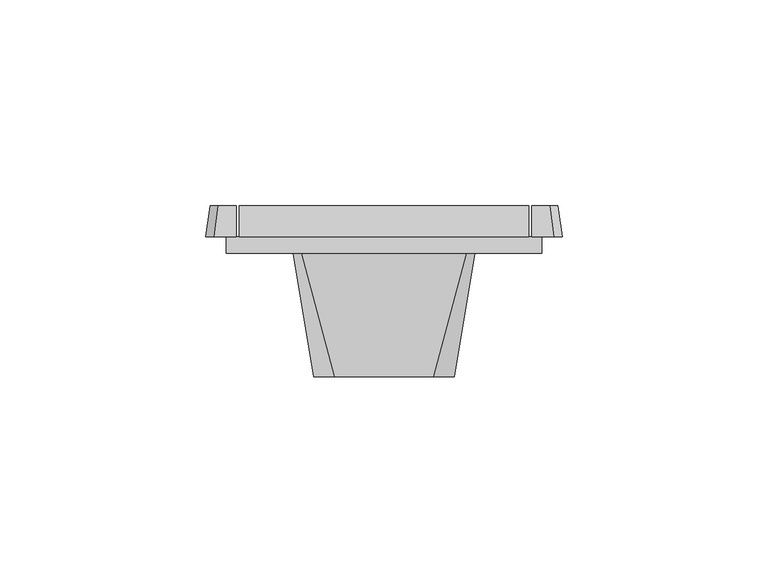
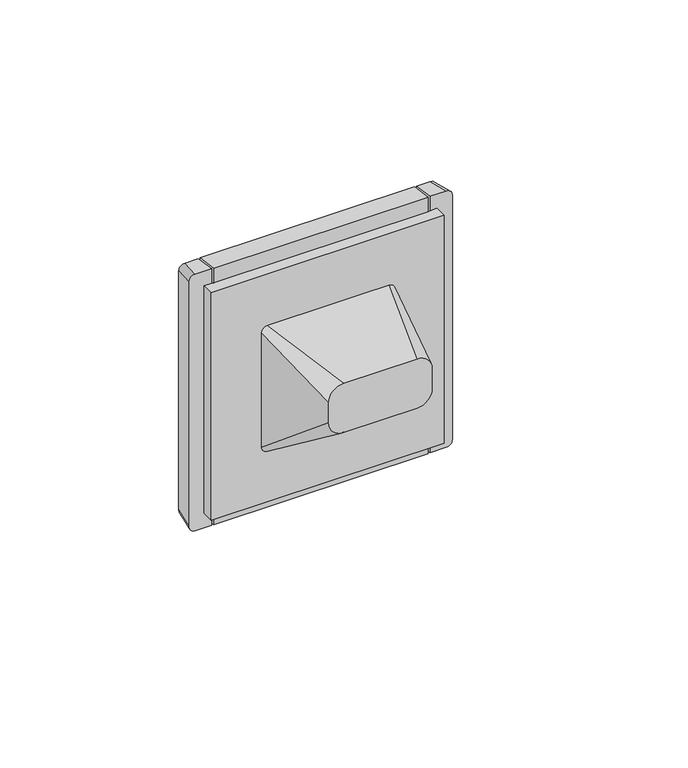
"""IFC4 building model written with IfcOpenShell, lengths in millimetres: proxy geometry, IEK_Forte&Piano_Розекта 1гн : USB A+C_FP147."""

from ifc_helpers import new_model, si_unit, point, frame, frame_2d, origin, origin_2d, place, context, project, spatial, polyline, circle_curve, ellipse_curve, trimmed, segment, composite_curve, outline, extrude, source, transform, mapped, element, save
from ifc_brep_helpers import plane_surface, cylinder_surface, revolved_surface, extruded_surface, spline_surface, advanced_brep


def electrical_fixtures_acb74695(model_context):
    return source(origin(), model_context, "Body", "SolidModel", [
        advanced_brep(
        [(35.2, 11.5, 43.5), (35.2, 4.0, 44.5), (35.2, 4.0, 39.5), (35.2, 4.0, -39.5), (35.2, 4.0, -44.5), (35.2, 11.5, -43.5), (-35.2, 11.5, 43.5), (-35.2, 11.5, -43.5), (-35.2, 4.0, -44.5), (-35.2, 4.0, -39.5), (-35.2, 4.0, 39.5), (-35.2, 4.0, 44.5), (21.930348, 11.5, 11.4595346), (26.1729886, 11.5, 15.7021753), (16.2734937, 11.5, 25.6016703), (12.030853, 11.5, 21.3590296), (-15.5519212, 11.5, 19.9592818), (-17.6732415, 11.5, 22.0806021), (-22.6519205, 11.5, 17.1019231), (-20.5306001, 11.5, 14.9806028), (-20.0, 11.5, 0.0), (20.0, 11.5, 0.0), (26.1729886, 4.0, 15.7021753), (21.930348, 4.0, 11.4595346), (12.030853, 4.0, 21.3590296), (16.2734937, 4.0, 25.6016703), (-17.6732415, 4.0, 22.0806021), (-15.5519212, 4.0, 19.9592818), (-20.5306001, 4.0, 14.9806028), (-22.6519205, 4.0, 17.1019231), (-20.0, 0.0, 0.0), (20.0, 0.0, 0.0), (38.25, 4.0, 39.5), (38.25, 4.0, -39.5), (-38.25, 4.0, -39.5), (-38.25, 4.0, 39.5), (-38.25, 0.0, 39.5), (-38.25, 0.0, -39.5), (38.25, 0.0, -39.5), (38.25, 0.0, 39.5)],
        [
            (0, 1),
            (1, 2),
            (2, 3),
            (3, 4),
            (4, 5),
            (5, 0),
            (6, 7),
            (7, 8),
            (8, 9),
            (9, 10),
            (10, 11),
            (11, 6),
            (0, 6),
            (11, 1),
            (10, 2),
            (8, 4),
            (3, 9),
            (7, 5),
            (12, 13),
            (13, 14),
            (14, 15),
            (15, 12),
            (16, 17, circle_curve(frame((-16.6125813, 11.5, 21.0199419), z_axis=(0.0, -1.0, 0.0), x_axis=(0.7071067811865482, 0.0, -0.7071067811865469)), 1.5)),
            (17, 18),
            (18, 19, circle_curve(frame((-21.5912603, 11.5, 16.041263), z_axis=(0.0, -1.0, 0.0), x_axis=(0.7071067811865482, 0.0, -0.7071067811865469)), 1.5)),
            (19, 16),
            (20, 21, circle_curve(frame((0.0, 11.5, 0.0), z_axis=(0.0, -1.0, 0.0), x_axis=(-1.0, 0.0, 0.0)), 20.0)),
            (21, 20, circle_curve(frame((0.0, 11.5, 0.0), z_axis=(0.0, -1.0, 0.0), x_axis=(-1.0, 0.0, 0.0)), 20.0)),
            (22, 13),
            (12, 23),
            (23, 22),
            (15, 24),
            (24, 23),
            (14, 25),
            (25, 24),
            (22, 25),
            (26, 17),
            (16, 27),
            (27, 26, circle_curve(frame((-16.6125813, 4.0, 21.0199419), z_axis=(0.0, -1.0, 0.0), x_axis=(0.7071067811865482, 0.0, -0.7071067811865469)), 1.5)),
            (19, 28),
            (28, 27),
            (18, 29),
            (29, 28, circle_curve(frame((-21.5912603, 4.0, 16.041263), z_axis=(0.0, -1.0, 0.0), x_axis=(0.7071067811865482, 0.0, -0.7071067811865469)), 1.5)),
            (26, 29),
            (20, 30),
            (30, 31, circle_curve(frame((0.0, 0.0, 0.0), z_axis=(0.0, -1.0, 0.0), x_axis=(-1.0, 0.0, 0.0)), 20.0)),
            (31, 21),
            (31, 30, circle_curve(frame((0.0, 0.0, 0.0), z_axis=(0.0, -1.0, 0.0), x_axis=(-1.0, 0.0, 0.0)), 20.0)),
            (32, 33),
            (33, 3),
            (2, 32),
            (34, 35),
            (35, 10),
            (9, 34),
            (36, 37),
            (37, 38),
            (38, 39),
            (39, 36),
            (34, 37),
            (36, 35),
            (33, 38),
            (32, 39),
        ],
        [
            plane_surface(frame((35.2, 4.0, 44.5), z_axis=(1.0, 0.0, 0.0), x_axis=(0.0, -0.9912279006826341, 0.13216372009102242))),
            plane_surface(frame((-35.2, 4.0, 44.5), z_axis=(-1.0, 0.0, 0.0), x_axis=(0.0, 0.9912279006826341, -0.13216372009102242))),
            plane_surface(frame((35.2, 11.5, 43.5), z_axis=(0.0, 0.13216372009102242, 0.9912279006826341), x_axis=(-1.0, 0.0, 0.0))),
            plane_surface(frame((35.2, 4.0, 44.5), z_axis=(0.0, -1.0, 0.0), x_axis=(-1.0, 0.0, 0.0))),
            plane_surface(frame((35.2, 4.0, -44.5), z_axis=(0.0, 0.1321637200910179, -0.9912279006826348), x_axis=(-1.0, 0.0, 0.0))),
            plane_surface(frame((35.2, 11.5, -43.5), z_axis=(0.0, 1.0, 0.0), x_axis=(-1.0, 0.0, 0.0))),
            plane_surface(frame((26.1729886, 11.5, 15.7021753), z_axis=(-0.7071067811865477, 0.0, 0.7071067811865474), x_axis=(0.0, -1.0, 0.0))),
            plane_surface(frame((21.930348, 11.5, 11.4595346), z_axis=(0.7071067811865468, 0.0, 0.7071067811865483), x_axis=(0.0, -1.0, 0.0))),
            plane_surface(frame((12.030853, 11.5, 21.3590296), z_axis=(0.7071067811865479, 0.0, -0.7071067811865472), x_axis=(0.0, -1.0, 0.0))),
            plane_surface(frame((16.2734937, 11.5, 25.6016703), z_axis=(-0.7071067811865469, 0.0, -0.7071067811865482), x_axis=(0.0, -1.0, 0.0))),
            revolved_surface(polyline([(-15.551921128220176, 11.5, 19.95928172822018), (-15.551921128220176, 4.0, 19.95928172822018)]), (-16.6125813, 3.365818, 21.0199419), (0.0, 1.0, 0.0)),
            plane_surface(frame((-15.5519212, 11.5, 19.9592818), z_axis=(-0.7071067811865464, 0.0, 0.7071067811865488), x_axis=(0.0, -1.0, 0.0))),
            revolved_surface(polyline([(-20.530600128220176, 11.5, 14.98060282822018), (-20.530600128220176, 4.0, 14.98060282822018)]), (-21.5912603, 3.365818, 16.041263), (0.0, 1.0, 0.0)),
            plane_surface(frame((-22.6519205, 11.5, 17.1019231), z_axis=(0.7071067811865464, 0.0, -0.7071067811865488), x_axis=(0.0, -1.0, 0.0))),
            revolved_surface(polyline([(-20.0, 11.5, 0.0), (-20.0, 0.0, 0.0)]), (0.0, 0.0, 0.0), (0.0, 1.0, 0.0)),
            plane_surface(frame((-38.25, 4.0, 39.5), z_axis=(0.0, 1.0, 0.0), x_axis=(0.0, 0.0, 1.0))),
            plane_surface(frame((-38.25, 0.0, 39.5), z_axis=(0.0, -1.0, 0.0), x_axis=(0.0, 0.0, -1.0))),
            plane_surface(frame((-38.25, 0.0, 39.5), z_axis=(-1.0, 0.0, 0.0), x_axis=(0.0, 1.0, 0.0))),
            plane_surface(frame((-38.25, 0.0, -39.5), z_axis=(0.0, 0.0, -1.0), x_axis=(0.0, 1.0, 0.0))),
            plane_surface(frame((38.25, 0.0, -39.5), z_axis=(1.0, 0.0, 0.0), x_axis=(0.0, 1.0, 0.0))),
            plane_surface(frame((38.25, 0.0, 39.5), z_axis=(0.0, 0.0, 1.0), x_axis=(0.0, 1.0, 0.0))),
        ],
        [
            (0, [[1, 2, 3, 4, 5, 6]]),
            (1, [[7, 8, 9, 10, 11, 12]]),
            (2, [[-1, 13, -12, 14]]),
            (3, [[-14, -11, 15, -2]]),
            (3, [[16, -4, 17, -9]]),
            (4, [[-5, -16, -8, 18]]),
            (5, [[-6, -18, -7, -13], [19, 20, 21, 22], [23, 24, 25, 26], [27, 28]]),
            (6, [[29, -19, 30, 31]]),
            (7, [[-30, -22, 32, 33]]),
            (8, [[-32, -21, 34, 35]]),
            (9, [[-29, 36, -34, -20]]),
            (10, [[37, -23, 38, 39]]),
            (11, [[-38, -26, 40, 41]]),
            (12, [[-40, -25, 42, 43]]),
            (13, [[-37, 44, -42, -24]]),
            (14, [[45, 46, 47, -27]]),
            (14, [[-45, -28, -47, 48]]),
            (15, [[-31, -33, -35, -36]]),
            (15, [[-39, -41, -43, -44]]),
            (15, [[49, 50, -3, 51]]),
            (15, [[52, 53, -10, 54]]),
            (16, [[55, 56, 57, 58], [-46, -48]]),
            (17, [[-52, 59, -55, 60]]),
            (18, [[-56, -59, -54, -17, -50, 61]]),
            (19, [[-49, 62, -57, -61]]),
            (20, [[-58, -62, -51, -15, -53, -60]]),
        ],
    ),
        extrude(outline(polyline([(0.0, -0.9893176), (0.0, 0.0), (6.432744, 0.0), (6.432744, -0.9893176), (0.0, -0.9893176)])), frame((-21.1636844, 9.7887083, 15.7523145), z_axis=(0.7071067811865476, 0.0, 0.7071067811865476), x_axis=(0.0, -1.0, 0.0)), (0.0, 0.0, 1.0), 7.0658374),
        extrude(outline(polyline([(0.0, -1.1531456), (0.0, 0.0), (6.432744, 0.0), (6.432744, -1.1531456), (0.0, -1.1531456)])), frame((21.2404576, 9.832744, 14.5465446), z_axis=(0.7071067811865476, 0.0, 0.7071067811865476), x_axis=(0.0, -1.0, 0.0)), (0.0, 0.0, 1.0), 0.9632194),
        extrude(outline(polyline([(0.0, -1.1531455), (0.0, 0.0), (6.432744, 0.0), (6.432744, -1.1531455), (0.0, -1.1531455)])), frame((19.4528563, 9.832744, 16.3341459), z_axis=(0.7071067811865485, 0.0, 0.7071067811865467), x_axis=(0.0, -1.0, 0.0)), (0.0, 0.0, 1.0), 0.9632194),
        extrude(outline(polyline([(0.0, -1.1531456), (0.0, 0.0), (6.432744, 0.0), (6.432744, -1.1531456), (0.0, -1.1531456)])), frame((17.7049237, 9.832744, 18.0820785), z_axis=(0.7071067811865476, 0.0, 0.7071067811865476), x_axis=(0.0, -1.0, 0.0)), (0.0, 0.0, 1.0), 0.9632194),
        extrude(outline(polyline([(0.0, -1.1531455), (0.0, 0.0), (6.432744, 0.0), (6.432744, -1.1531455), (0.0, -1.1531455)])), frame((15.9173224, 9.832744, 19.8696798), z_axis=(0.7071067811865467, 0.0, 0.7071067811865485), x_axis=(0.0, -1.0, 0.0)), (0.0, 0.0, 1.0), 0.9632194),
        extrude(outline(polyline([(0.0, -11.3487944), (0.0, 0.0), (6.7835378, 0.0), (6.7835378, -11.3487944), (0.0, -11.3487944)])), frame((14.0179934, 3.365818, 21.2650885), z_axis=(0.707106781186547, 0.0, 0.7071067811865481), x_axis=(0.0, 1.0, 0.0)), (0.0, 0.0, 1.0), 1.1632949),
        extrude(outline(composite_curve([segment(trimmed(circle_curve(frame_2d((6.4251956, 19.2322549)), 1.2539127), [point((7.6710794, 19.3739261))], [point((5.5330873, 18.3510967))], False, "CARTESIAN"), True, "CONTINUOUS"), segment(polyline([(5.5330873, 18.3510967), (-1.7, 17.5095674), (-1.7, 18.7042816), (7.6710794, 19.3739261)]), True, "CONTINUOUS")], self_intersect=False)), frame((-1.5, 0.0, 0.0), z_axis=(1.0, 0.0, 0.0), x_axis=(0.0, 1.0, 0.0)), (0.0, 0.0, 1.0), 3.0),
        extrude(outline(composite_curve([segment(polyline([(7.6710794, -19.3739261), (-1.7, -18.7042816), (-1.7, -17.5095674), (5.5330873, -18.3510967)]), True, "CONTINUOUS"), segment(trimmed(circle_curve(frame_2d((6.4251956, -19.2322549)), 1.2539127), [point((5.5330873, -18.3510967))], [point((7.6710794, -19.3739261))], False, "CARTESIAN"), True, "CONTINUOUS")], self_intersect=False)), frame((-1.5, 0.0, 0.0), z_axis=(1.0, 0.0, 0.0), x_axis=(0.0, 1.0, 0.0)), (0.0, 0.0, 1.0), 3.0),
        advanced_brep(
        [(-12.0, -30.0, 17.0), (-17.0, -30.0, 12.0), (-17.0, -30.0, 5.0), (-12.0, -30.0, 0.0), (12.0, -30.0, 0.0), (17.0, -30.0, 5.0), (17.0, -30.0, 12.0), (12.0, -30.0, 17.0), (-20.0, 0.0, 22.0), (20.0, 0.0, 22.0), (22.0, 0.0, 20.0), (22.0, 0.0, -20.0), (20.0, 0.0, -22.0), (-20.0, 0.0, -22.0), (-22.0, 0.0, -20.0), (-22.0, 0.0, 20.0), (11.8753617, 0.0, 0.0), (6.3904783, 0.0, 0.0), (-6.3904783, 0.0, 0.0), (-11.8753617, 0.0, 0.0), (3.0105286, 0.0, 0.0), (-3.0105286, 0.0, 0.0), (1.5, 0.0, 19.3739261), (-1.5, 0.0, 19.3739261), (-1.5, 0.0, 17.5095674), (1.5, 0.0, 17.5095674), (1.5, 0.0, -19.3739261), (1.5, 0.0, -17.5095674), (-1.5, 0.0, -17.5095674), (-1.5, 0.0, -19.3739261), (1.5, -6.1233172, -17.5095674), (1.5, -3.5810099, -19.3739261), (-1.5, -3.5810099, -19.3739261), (-1.5, -6.1233172, -17.5095674), (11.8753617, -10.5003369, 0.0), (6.3904783, -10.5003369, 0.0), (-6.3904783, -10.5003369, 0.0), (-11.8753617, -10.5003369, 0.0), (3.0105286, -10.5003369, 0.0), (-3.0105286, -10.5003369, 0.0), (1.5, -10.5003369, 19.3739261), (1.5, -10.5003369, 17.5095674), (-1.5, -10.5003369, 17.5095674), (-1.5, -10.5003369, 19.3739261)],
        [
            (0, 1, circle_curve(frame((-12.0, -30.0, 12.0), z_axis=(0.0, -1.0, 0.0), x_axis=(1.0, 0.0, 0.0)), 5.0)),
            (1, 2),
            (2, 3, circle_curve(frame((-12.0, -30.0, 5.0), z_axis=(0.0, -1.0, 0.0), x_axis=(1.0, 0.0, 0.0)), 5.0)),
            (3, 4),
            (4, 5, circle_curve(frame((12.0, -30.0, 5.0), z_axis=(0.0, -1.0, 0.0), x_axis=(1.0, 0.0, 0.0)), 5.0)),
            (5, 6),
            (6, 7, circle_curve(frame((12.0, -30.0, 12.0), z_axis=(0.0, -1.0, 0.0), x_axis=(1.0, 0.0, 0.0)), 5.0)),
            (7, 0),
            (8, 9),
            (9, 10, circle_curve(frame((20.0, 0.0, 20.0), z_axis=(0.0, 1.0, 0.0), x_axis=(1.0, 0.0, 0.0)), 2.0)),
            (10, 11),
            (11, 12, circle_curve(frame((20.0, 0.0, -20.0), z_axis=(0.0, 1.0, 0.0), x_axis=(1.0, 0.0, 0.0)), 2.0)),
            (12, 13),
            (13, 14, circle_curve(frame((-20.0, 0.0, -20.0), z_axis=(0.0, 1.0, 0.0), x_axis=(1.0, 0.0, 0.0)), 2.0)),
            (14, 15),
            (15, 8, circle_curve(frame((-20.0, 0.0, 20.0), z_axis=(0.0, 1.0, 0.0), x_axis=(1.0, 0.0, 0.0)), 2.0)),
            (16, 17, circle_curve(frame((9.13292, 0.0, 0.0), z_axis=(0.0, -1.0, 0.0), x_axis=(-1.0, 0.0, 0.0)), 2.7424417)),
            (17, 16, circle_curve(frame((9.13292, 0.0, 0.0), z_axis=(0.0, -1.0, 0.0), x_axis=(-1.0, 0.0, 0.0)), 2.7424417)),
            (18, 19, circle_curve(frame((-9.13292, 0.0, 0.0), z_axis=(0.0, -1.0, 0.0), x_axis=(-1.0, 0.0, 0.0)), 2.7424417)),
            (19, 18, circle_curve(frame((-9.13292, 0.0, 0.0), z_axis=(0.0, -1.0, 0.0), x_axis=(-1.0, 0.0, 0.0)), 2.7424417)),
            (20, 21, circle_curve(frame((0.0, 0.0, 0.0), z_axis=(0.0, -1.0, 0.0), x_axis=(-1.0, 0.0, 0.0)), 3.0105286)),
            (21, 20, circle_curve(frame((0.0, 0.0, 0.0), z_axis=(0.0, -1.0, 0.0), x_axis=(-1.0, 0.0, 0.0)), 3.0105286)),
            (22, 23),
            (23, 24),
            (24, 25),
            (25, 22),
            (26, 27),
            (27, 28),
            (28, 29),
            (29, 26),
            (7, 9),
            (8, 0),
            (6, 10),
            (5, 11),
            (4, 12),
            (3, 13),
            (30, 31),
            (31, 32),
            (32, 33),
            (33, 30),
            (2, 14),
            (1, 15),
            (34, 35, circle_curve(frame((9.13292, -10.5003369, 0.0), z_axis=(0.0, 1.0, 0.0), x_axis=(-1.0, 0.0, 0.0)), 2.7424417)),
            (35, 34, circle_curve(frame((9.13292, -10.5003369, 0.0), z_axis=(0.0, 1.0, 0.0), x_axis=(-1.0, 0.0, 0.0)), 2.7424417)),
            (36, 37, circle_curve(frame((-9.13292, -10.5003369, 0.0), z_axis=(0.0, 1.0, 0.0), x_axis=(-1.0, 0.0, 0.0)), 2.7424417)),
            (37, 36, circle_curve(frame((-9.13292, -10.5003369, 0.0), z_axis=(0.0, 1.0, 0.0), x_axis=(-1.0, 0.0, 0.0)), 2.7424417)),
            (38, 39, circle_curve(frame((0.0, -10.5003369, 0.0), z_axis=(0.0, 1.0, 0.0), x_axis=(-1.0, 0.0, 0.0)), 3.0105286)),
            (39, 38, circle_curve(frame((0.0, -10.5003369, 0.0), z_axis=(0.0, 1.0, 0.0), x_axis=(-1.0, 0.0, 0.0)), 3.0105286)),
            (40, 41),
            (41, 42),
            (42, 43),
            (43, 40),
            (35, 17),
            (16, 34),
            (37, 19),
            (18, 36),
            (39, 21),
            (20, 38),
            (43, 23),
            (22, 40),
            (42, 24),
            (41, 25),
            (30, 27),
            (26, 31),
            (33, 28),
            (32, 29),
        ],
        [
            plane_surface(frame((0.0, -30.0, 8.5), z_axis=(0.0, -1.0, 0.0), x_axis=(-1.0, 0.0, 0.0))),
            plane_surface(frame((0.0, 0.0, 0.0), z_axis=(0.0, 1.0, 0.0), x_axis=(-1.0, 0.0, 0.0))),
            plane_surface(frame((0.0, 0.0, 22.0), z_axis=(0.0, -0.16439898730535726, 0.9863939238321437), x_axis=(-1.0, 0.0, 0.0))),
            spline_surface(2, 1, [[(22.0, 0.0, 20.0), (17.0, -30.0, 12.0)], [(22.0, 0.0, 22.0), (17.0, -30.0, 17.0)], [(20.0, 0.0, 22.0), (12.0, -30.0, 17.0)]], [3, 3], [2, 2], [0.0, 1.0], [0.0, 1.0], weights=[[1.0, 1.0], [0.7071067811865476, 0.7071067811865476], [1.0, 1.0]]),
            plane_surface(frame((22.0, 0.0, 0.0), z_axis=(0.9863939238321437, -0.1643989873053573, 0.0), x_axis=(0.0, 0.0, 1.0))),
            spline_surface(2, 1, [[(20.0, 0.0, -22.0), (12.0, -30.0, 0.0)], [(22.0, 0.0, -22.0), (17.0, -30.0, 0.0)], [(22.0, 0.0, -20.0), (17.0, -30.0, 5.0)]], [3, 3], [2, 2], [0.0, 1.0], [0.0, 1.0], weights=[[1.0, 1.0], [0.7071067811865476, 0.7071067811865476], [1.0, 1.0]]),
            plane_surface(frame((0.0, 0.0, -22.0), z_axis=(0.0, -0.591363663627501, -0.8064049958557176), x_axis=(1.0, 0.0, 0.0))),
            spline_surface(2, 1, [[(-22.0, 0.0, -20.0), (-17.0, -30.0, 5.0)], [(-22.0, 0.0, -22.0), (-17.0, -30.0, 0.0)], [(-20.0, 0.0, -22.0), (-12.0, -30.0, 0.0)]], [3, 3], [2, 2], [0.0, 1.0], [0.0, 1.0], weights=[[1.0, 1.0], [0.7071067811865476, 0.7071067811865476], [1.0, 1.0]]),
            plane_surface(frame((-22.0, 0.0, 0.0), z_axis=(-0.9863939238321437, -0.1643989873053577, 0.0), x_axis=(0.0, 0.0, -1.0))),
            spline_surface(2, 1, [[(-20.0, 0.0, 22.0), (-12.0, -30.0, 17.0)], [(-22.0, 0.0, 22.0), (-17.0, -30.0, 17.0)], [(-22.0, 0.0, 20.0), (-17.0, -30.0, 12.0)]], [3, 3], [2, 2], [0.0, 1.0], [0.0, 1.0], weights=[[1.0, 1.0], [0.7071067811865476, 0.7071067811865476], [1.0, 1.0]]),
            plane_surface(frame((6.3904783, -10.5003369, 0.0), z_axis=(0.0, 1.0, 0.0), x_axis=(0.0, 0.0, -1.0))),
            revolved_surface(polyline([(6.3904783, 0.0, 0.0), (6.3904783, -10.5003369, 0.0)]), (9.13292, -10.5003369, 0.0), (0.0, 1.0, 0.0)),
            revolved_surface(polyline([(-11.875361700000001, 0.0, 0.0), (-11.875361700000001, -10.5003369, 0.0)]), (-9.13292, 0.0, 0.0), (0.0, 1.0, 0.0)),
            revolved_surface(polyline([(-3.0105286, 0.0, 0.0), (-3.0105286, -10.5003369, 0.0)]), (0.0, 0.0, 0.0), (0.0, 1.0, 0.0)),
            plane_surface(frame((-1.5, 1.0, 19.3739261), z_axis=(0.0, 0.0, -1.0), x_axis=(0.0, -1.0, 0.0))),
            plane_surface(frame((-1.5, 1.0, 17.5095674), z_axis=(1.0, 0.0, 0.0), x_axis=(0.0, -1.0, 0.0))),
            plane_surface(frame((1.5, 1.0, 17.5095674), z_axis=(0.0, 0.0, 1.0), x_axis=(0.0, -1.0, 0.0))),
            plane_surface(frame((1.5, 1.0, 19.3739261), z_axis=(-1.0, 0.0, 0.0), x_axis=(0.0, -1.0, 0.0))),
            plane_surface(frame((1.5, 1.0, -17.5095674), z_axis=(-1.0, 0.0, 0.0), x_axis=(0.0, -1.0, 0.0))),
            plane_surface(frame((-1.5, 1.0, -17.5095674), z_axis=(0.0, 0.0, -1.0), x_axis=(0.0, -1.0, 0.0))),
            plane_surface(frame((-1.5, 1.0, -19.3739261), z_axis=(1.0, 0.0, 0.0), x_axis=(0.0, -1.0, 0.0))),
            plane_surface(frame((1.5, 1.0, -19.3739261), z_axis=(0.0, 0.0, 1.0), x_axis=(0.0, -1.0, 0.0))),
        ],
        [
            (0, [[1, 2, 3, 4, 5, 6, 7, 8]]),
            (1, [[9, 10, 11, 12, 13, 14, 15, 16], [17, 18], [19, 20], [21, 22], [23, 24, 25, 26], [27, 28, 29, 30]]),
            (2, [[-8, 31, -9, 32]]),
            (3, [[-7, 33, -10, -31]]),
            (4, [[-6, 34, -11, -33]]),
            (5, [[-5, 35, -12, -34]]),
            (6, [[-4, 36, -13, -35], [37, 38, 39, 40]]),
            (7, [[-3, 41, -14, -36]]),
            (8, [[-2, 42, -15, -41]]),
            (9, [[-1, -32, -16, -42]]),
            (10, [[43, 44]]),
            (10, [[45, 46]]),
            (10, [[47, 48]]),
            (10, [[49, 50, 51, 52]]),
            (11, [[-44, 53, -17, 54]]),
            (11, [[-43, -54, -18, -53]]),
            (12, [[-46, 55, -19, 56]]),
            (12, [[-45, -56, -20, -55]]),
            (13, [[-48, 57, -21, 58]]),
            (13, [[-47, -58, -22, -57]]),
            (14, [[-52, 59, -23, 60]]),
            (15, [[-51, 61, -24, -59]]),
            (16, [[-50, 62, -25, -61]]),
            (17, [[-49, -60, -26, -62]]),
            (18, [[63, -27, 64, -37]]),
            (19, [[-63, -40, 65, -28]]),
            (20, [[-65, -39, 66, -29]]),
            (21, [[-66, -38, -64, -30]]),
        ],
    ),
        advanced_brep(
        [(0.0, 0.078125, -2.8986917), (0.0, 0.078125, 2.8986917), (0.0, 0.8649081, 0.0), (0.0, -1.7, -2.8986917), (0.0, -1.7, 2.8986917), (0.0, -1.7, 0.0)],
        [
            (0, 1, circle_curve(frame((0.0, 0.078125, 0.0), z_axis=(0.0, 1.0, 0.0), x_axis=(0.0, 0.0, 1.0)), 2.8986917)),
            (1, 2, ellipse_curve(frame((0.0, 0.078125, 0.15625), z_axis=(-1.0, 0.0, 0.0), x_axis=(0.0, 0.0, 1.0)), 2.7424417, 0.7880633)),
            (2, 0, ellipse_curve(frame((0.0, 0.078125, -0.15625), z_axis=(-1.0, 0.0, 0.0), x_axis=(0.0, 0.0, -1.0)), 2.7424417, 0.7880633)),
            (1, 0, circle_curve(frame((0.0, 0.078125, 0.0), z_axis=(0.0, 1.0, 0.0), x_axis=(0.0, 0.0, 1.0)), 2.8986917)),
            (3, 4, circle_curve(frame((0.0, -1.7, 0.0), z_axis=(0.0, 1.0, 0.0), x_axis=(0.0, 0.0, 1.0)), 2.8986917)),
            (4, 1),
            (0, 3),
            (4, 3, circle_curve(frame((0.0, -1.7, 0.0), z_axis=(0.0, 1.0, 0.0), x_axis=(0.0, 0.0, 1.0)), 2.8986917)),
            (5, 4),
            (3, 5),
        ],
        [
            revolved_surface(trimmed(ellipse_curve(frame((0.0, 0.078125, 0.15625), z_axis=(1.0, 0.0, 0.0), x_axis=(0.0, 0.0, 1.0)), 2.7424417, 0.7880633), [point((0.0, 0.8649081, 0.0))], [point((0.0, 0.078125, 2.8986917))], True, "CARTESIAN"), (0.0, -3.0228134, 0.0), (0.0, -1.0, 0.0)),
            cylinder_surface(frame((0.0, -3.0228134, 0.0), z_axis=(0.0, -1.0, 0.0), x_axis=(0.0, 0.0, 1.0)), 2.8986917),
            plane_surface(frame((0.0, -1.7, 0.0), z_axis=(0.0, -1.0, 0.0), x_axis=(0.0, 0.0, 1.0))),
        ],
        [
            (0, [[1, 2, 3]]),
            (0, [[4, -3, -2]]),
            (1, [[5, 6, -1, 7]]),
            (1, [[8, -7, -4, -6]]),
            (2, [[9, -5, 10]]),
            (2, [[-10, -8, -9]]),
        ],
    ),
        extrude(outline(composite_curve([segment(polyline([(3.2980592, -16.488464), (11.3194768, -16.488464)]), True, "CONTINUOUS"), segment(trimmed(circle_curve(origin_2d(), 20.0), [point((11.3194768, -16.488464))], [point((3.2980592, -19.7261959))], False, "CARTESIAN"), True, "CONTINUOUS"), segment(polyline([(3.2980592, -19.7261959), (3.2980592, -16.488464)]), True, "CONTINUOUS")], self_intersect=False)), frame((0.0, 0.0, 0.0), z_axis=(0.0, 1.0, 0.0), x_axis=(0.0, 0.0, 1.0)), (0.0, 0.0, 1.0), 8.0),
        extrude(outline(composite_curve([segment(polyline([(-3.2980592, -16.488464), (-3.2980592, -19.7261959)]), True, "CONTINUOUS"), segment(trimmed(circle_curve(origin_2d(), 20.0), [point((-3.2980592, -19.7261959))], [point((-11.3194768, -16.488464))], False, "CARTESIAN"), True, "CONTINUOUS"), segment(polyline([(-11.3194768, -16.488464), (-3.2980592, -16.488464)]), True, "CONTINUOUS")], self_intersect=False)), frame((0.0, 0.0, 0.0), z_axis=(0.0, 1.0, 0.0), x_axis=(0.0, 0.0, 1.0)), (0.0, 0.0, 1.0), 8.0),
        extrude(outline(composite_curve([segment(polyline([(3.2980592, 16.488464), (3.2980592, 19.7261959)]), True, "CONTINUOUS"), segment(trimmed(circle_curve(origin_2d(), 20.0), [point((3.2980592, 19.7261959))], [point((11.3194768, 16.488464))], False, "CARTESIAN"), True, "CONTINUOUS"), segment(polyline([(11.3194768, 16.488464), (3.2980592, 16.488464)]), True, "CONTINUOUS")], self_intersect=False)), frame((0.0, 0.0, 0.0), z_axis=(0.0, 1.0, 0.0), x_axis=(0.0, 0.0, 1.0)), (0.0, 0.0, 1.0), 8.0),
        extrude(outline(composite_curve([segment(polyline([(-3.2980592, 16.488464), (-11.3194768, 16.488464)]), True, "CONTINUOUS"), segment(trimmed(circle_curve(origin_2d(), 20.0), [point((-11.3194768, 16.488464))], [point((-3.2980592, 19.7261959))], False, "CARTESIAN"), True, "CONTINUOUS"), segment(polyline([(-3.2980592, 19.7261959), (-3.2980592, 16.488464)]), True, "CONTINUOUS")], self_intersect=False)), frame((0.0, 0.0, 0.0), z_axis=(0.0, 1.0, 0.0), x_axis=(0.0, 0.0, 1.0)), (0.0, 0.0, 1.0), 8.0),
        advanced_brep(
        [(35.8576533, 11.5, 43.5), (35.8576533, 11.5, -43.5), (35.8576533, 4.0, -44.5), (35.8576533, 4.0, 44.5), (40.25, 11.5, 43.5), (42.25, 11.5, 41.5), (42.25, 11.5, -41.5), (40.25, 11.5, -43.5), (41.25, 4.0, -44.5), (43.25, 4.0, -42.5), (43.25, 4.0, 42.5), (41.25, 4.0, 44.5)],
        [
            (0, 1),
            (1, 2),
            (2, 3),
            (3, 0),
            (4, 5, circle_curve(frame((40.25, 11.5, 41.5), z_axis=(0.0, 1.0, 0.0), x_axis=(-1.0, 0.0, 0.0)), 2.0)),
            (5, 6),
            (6, 7, circle_curve(frame((40.25, 11.5, -41.5), z_axis=(0.0, 1.0, 0.0), x_axis=(-1.0, 0.0, 0.0)), 2.0)),
            (7, 1),
            (0, 4),
            (8, 9, circle_curve(frame((41.25, 4.0, -42.5), z_axis=(0.0, -1.0, 0.0), x_axis=(-1.0, 0.0, 0.0)), 2.0)),
            (9, 10),
            (10, 11, circle_curve(frame((41.25, 4.0, 42.5), z_axis=(0.0, -1.0, 0.0), x_axis=(-1.0, 0.0, 0.0)), 2.0)),
            (11, 3),
            (2, 8),
            (11, 4),
            (10, 5),
            (9, 6),
            (8, 7),
        ],
        [
            plane_surface(frame((35.8576533, 11.5, 44.5), z_axis=(-1.0, 0.0, 0.0), x_axis=(0.0, -1.0, 0.0))),
            plane_surface(frame((0.0, 11.5, 0.0), z_axis=(0.0, 1.0, 0.0), x_axis=(1.0, 0.0, 0.0))),
            plane_surface(frame((0.0, 4.0, 0.0), z_axis=(0.0, -1.0, 0.0), x_axis=(1.0, 0.0, 0.0))),
            plane_surface(frame((0.0, 4.0, 44.5), z_axis=(0.0, 0.13216372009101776, 0.9912279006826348), x_axis=(1.0, 0.0, 0.0))),
            extruded_surface(trimmed(circle_curve(frame((41.25, 4.0, 42.5), z_axis=(0.0, 1.0, 0.0), x_axis=(-1.0, 0.0, 0.0)), 2.0), [point((41.25, 4.0, 44.5))], [point((43.25, 4.0, 42.5))], True, "CARTESIAN"), (-1.0, 7.5, -1.0), 7.632168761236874),
            plane_surface(frame((43.25, 4.0, 0.0), z_axis=(0.9912279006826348, 0.13216372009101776, 0.0), x_axis=(0.0, 0.0, -1.0))),
            extruded_surface(trimmed(circle_curve(frame((41.25, 4.0, -42.5), z_axis=(0.0, 1.0, 0.0), x_axis=(-1.0, 0.0, 0.0)), 2.0), [point((43.25, 4.0, -42.5))], [point((41.25, 4.0, -44.5))], True, "CARTESIAN"), (-1.0, 7.5, 1.0), 7.632168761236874),
            plane_surface(frame((0.0, 4.0, -44.5), z_axis=(0.0, 0.13216372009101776, -0.9912279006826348), x_axis=(-1.0, 0.0, 0.0))),
        ],
        [
            (0, [[1, 2, 3, 4]]),
            (1, [[5, 6, 7, 8, -1, 9]]),
            (2, [[10, 11, 12, 13, -3, 14]]),
            (3, [[15, -9, -4, -13]]),
            (4, [[-5, -15, -12, 16]]),
            (5, [[-6, -16, -11, 17]]),
            (6, [[-7, -17, -10, 18]]),
            (7, [[-18, -14, -2, -8]]),
        ],
    ),
        advanced_brep(
        [(-35.8576533, 11.5, -43.5), (-35.8576533, 11.5, 43.5), (-35.8576533, 4.0, 44.5), (-35.8576533, 4.0, -44.5), (-40.25, 11.5, -43.5), (-42.25, 11.5, -41.5), (-42.25, 11.5, 41.5), (-40.25, 11.5, 43.5), (-41.25, 4.0, 44.5), (-43.25, 4.0, 42.5), (-43.25, 4.0, -42.5), (-41.25, 4.0, -44.5)],
        [
            (0, 1),
            (1, 2),
            (2, 3),
            (3, 0),
            (4, 5, circle_curve(frame((-40.25, 11.5, -41.5), z_axis=(0.0, 1.0, 0.0), x_axis=(-1.0, 0.0, 0.0)), 2.0)),
            (5, 6),
            (6, 7, circle_curve(frame((-40.25, 11.5, 41.5), z_axis=(0.0, 1.0, 0.0), x_axis=(-1.0, 0.0, 0.0)), 2.0)),
            (7, 1),
            (0, 4),
            (8, 9, circle_curve(frame((-41.25, 4.0, 42.5), z_axis=(0.0, -1.0, 0.0), x_axis=(-1.0, 0.0, 0.0)), 2.0)),
            (9, 10),
            (10, 11, circle_curve(frame((-41.25, 4.0, -42.5), z_axis=(0.0, -1.0, 0.0), x_axis=(-1.0, 0.0, 0.0)), 2.0)),
            (11, 3),
            (2, 8),
            (7, 8),
            (11, 4),
            (10, 5),
            (9, 6),
        ],
        [
            plane_surface(frame((-35.8576533, 11.5, -44.5), z_axis=(1.0, 0.0, 0.0), x_axis=(0.0, -1.0, 0.0))),
            plane_surface(frame((0.0, 11.5, 0.0), z_axis=(0.0, 1.0, 0.0), x_axis=(1.0, 0.0, 0.0))),
            plane_surface(frame((0.0, 4.0, 0.0), z_axis=(0.0, -1.0, 0.0), x_axis=(1.0, 0.0, 0.0))),
            plane_surface(frame((0.0, 4.0, 44.5), z_axis=(0.0, 0.13216372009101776, 0.9912279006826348), x_axis=(1.0, 0.0, 0.0))),
            plane_surface(frame((0.0, 4.0, -44.5), z_axis=(0.0, 0.13216372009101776, -0.9912279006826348), x_axis=(-1.0, 0.0, 0.0))),
            extruded_surface(trimmed(circle_curve(frame((-41.25, 4.0, -42.5), z_axis=(0.0, 1.0, 0.0), x_axis=(-1.0, 0.0, 0.0)), 2.0), [point((-41.25, 4.0, -44.5))], [point((-43.25, 4.0, -42.5))], True, "CARTESIAN"), (1.0, 7.5, 1.0), 7.632168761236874),
            plane_surface(frame((-43.25, 4.0, 0.0), z_axis=(-0.9912279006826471, 0.13216372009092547, 0.0), x_axis=(0.0, 0.0, 1.0))),
            extruded_surface(trimmed(circle_curve(frame((-41.25, 4.0, 42.5), z_axis=(0.0, 1.0, 0.0), x_axis=(-1.0, 0.0, 0.0)), 2.0), [point((-43.25, 4.0, 42.5))], [point((-41.25, 4.0, 44.5))], True, "CARTESIAN"), (1.0, 7.5, -1.0), 7.632168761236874),
        ],
        [
            (0, [[1, 2, 3, 4]]),
            (1, [[5, 6, 7, 8, -1, 9]]),
            (2, [[10, 11, 12, 13, -3, 14]]),
            (3, [[15, -14, -2, -8]]),
            (4, [[16, -9, -4, -13]]),
            (5, [[-5, -16, -12, 17]]),
            (6, [[-6, -17, -11, 18]]),
            (7, [[-7, -18, -10, -15]]),
        ],
    ),
    ])


if __name__ == "__main__":
    model = new_model("IFC4")
    model_context = context("Model", 3, world=origin())
    ifc_project = project(units=[si_unit("LENGTHUNIT", "METRE", prefix="MILLI")], contexts=[model_context])
    site = spatial("IfcSite", under=ifc_project)
    building = spatial("IfcBuilding", under=site)
    placement = place(None, origin())
    electrical_fixtures_shape = electrical_fixtures_acb74695(model_context)
    element("IfcBuildingElementProxy", 1, Name="IEK_Forte&Piano_Розекта 1гн : USB A+C_FP147", ObjectType="IEK_Forte&Piano_Розекта 1гн : USB A+C_FP147", at=placement, inside=building, context=model_context, shape_type="MappedRepresentation", body=[
        mapped(electrical_fixtures_shape, transform((0.0, 0.0, 0.0), x_axis=(1.0, 0.0, 0.0), y_axis=(0.0, 1.0, 0.0), z_axis=(0.0, 0.0, 1.0))),
    ])
    save(model, "model.ifc")
